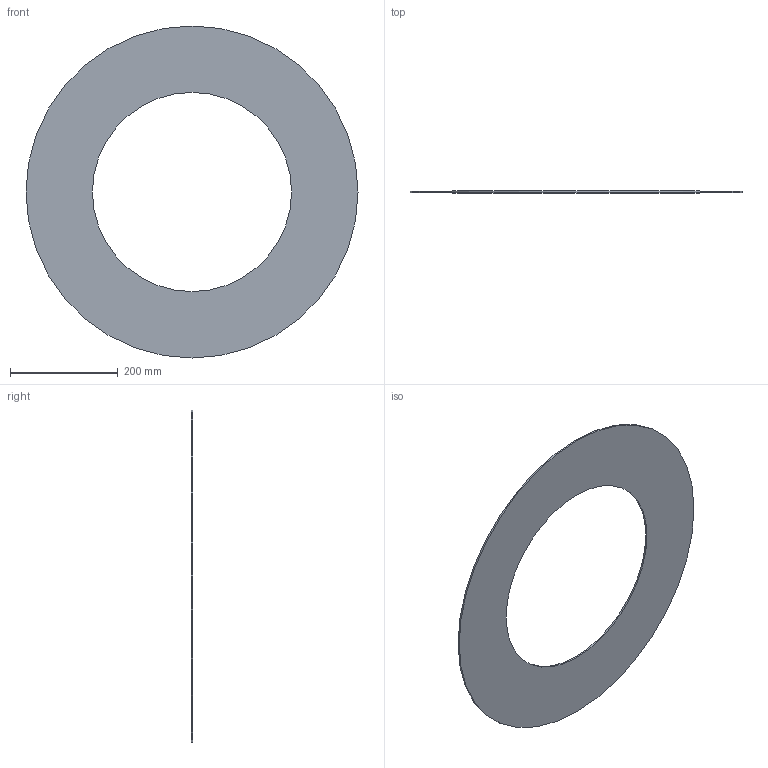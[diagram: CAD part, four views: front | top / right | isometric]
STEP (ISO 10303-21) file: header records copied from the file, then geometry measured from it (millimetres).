
FILE_DESCRIPTION(/* description */ ('Unknown'),/* implementation_level */ '2;1');
FILE_NAME(/* name */ 'GUA.450C',/* time_stamp */ '2021-04-01T14:18:04+02:00',/* author */ ('Unknown'),/* organization */ ('Unknown'),/* preprocessor_version */ 'ST-DEVELOPER v16.7',/* originating_system */ 'Solid Edge',/* authorisation */ 'Unknown');
FILE_SCHEMA (('AUTOMOTIVE_DESIGN {1 0 10303 214 3 1 1}'));
Length unit declared in the file: millimetre
Products named in the file (1): GUA.450C
Bounding box: 617 x 3 x 617 mm (x, y, z)
Volume: 574414.3 mm3; surface area: 392245.1 mm2
Topology: 1 solids, 1 shells, 4 faces, 6 edges, 4 vertices
Faces by surface type: cylinder 2, plane 2
Full cylindrical faces by diameter (mm): 370 x1, 617 x1
Entity records: 118 total; most frequent: DIRECTION 18, CARTESIAN_POINT 13, AXIS2_PLACEMENT_3D 9, ORIENTED_EDGE 8, EDGE_LOOP 8, FACE_BOUND 8, EDGE_CURVE 4, VERTEX_POINT 4
